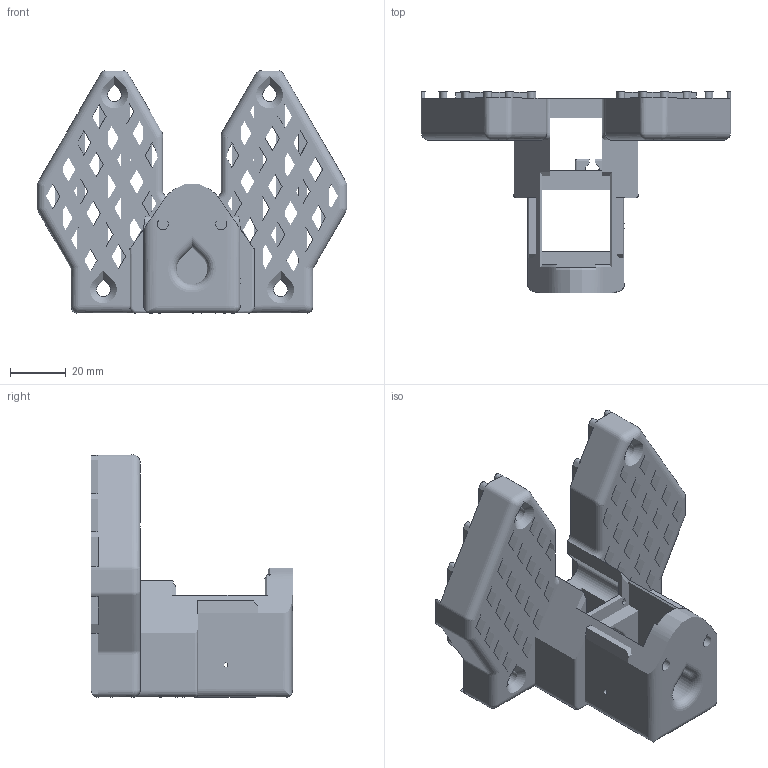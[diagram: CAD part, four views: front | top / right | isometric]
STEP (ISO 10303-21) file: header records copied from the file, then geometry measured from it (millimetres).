
FILE_DESCRIPTION(/* description */ ('STEP AP242 Edition 2','CAx-IF Rec.Pracs.---Representation and Presentation of Product Manufacturing Information (PMI)---4.0---2014-10-13','CAx-IF Rec.Pracs.---3D Tessellated Geometry---0.4---2014-09-14','2;1','CAx-IF Rec.Pracs.---User Defined Attributes---1.5---2016-08-15'),/* implementation_level */ '2;1');
FILE_NAME(/* name */ 'BambuLabA1mini_Leader_SO101 - Part 12',/* time_stamp */ '2026-11-25T15:08:23Z',/* author */ (''),/* organization */ (''),/* preprocessor_version */ 'ST-DEVELOPER v20',/* originating_system */ 'ONSHAPE BY PTC INC, 1.224',/* authorisation */ ' ');
FILE_SCHEMA (('AP242_MANAGED_MODEL_BASED_3D_ENGINEERING_MIM_LF { 1 0 10303 442 3 1 4 }'));
Length unit declared in the file: metre
Products named in the file (1): Part 12
Bounding box: 110.92 x 72 x 87 mm (x, y, z)
Surface area: 49296.6 mm2 (no closed solid volume)
Topology: 0 solids, 1 shells, 1 faces, 0 edges, 0 vertices
Faces by surface type: other 1
Entity records: 38 total; most frequent: STYLED_ITEM 2, PRESENTATION_STYLE_ASSIGNMENT 2, SURFACE_STYLE_USAGE 2, SURFACE_SIDE_STYLE 2, SURFACE_STYLE_FILL_AREA 2, FILL_AREA_STYLE 2, FILL_AREA_STYLE_COLOUR 2, DIRECTION 2
